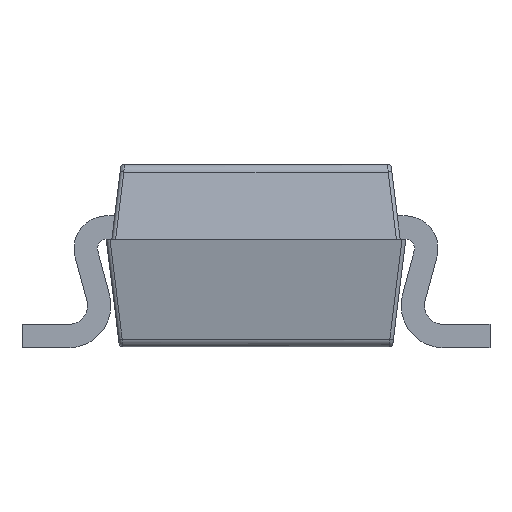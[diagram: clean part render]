
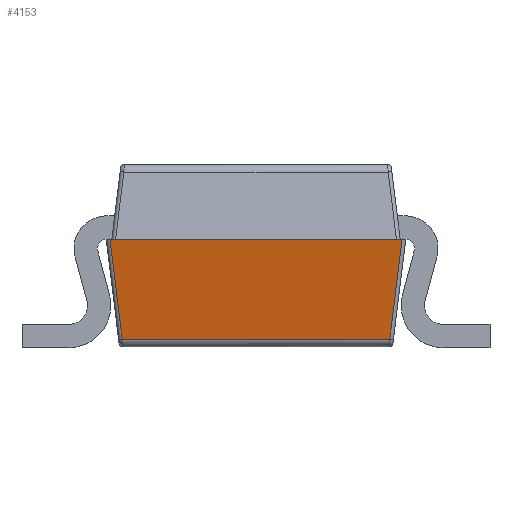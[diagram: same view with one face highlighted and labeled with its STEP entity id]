
A CAD part, left-side view. The second image highlights one B-rep face of the part: STEP entity #4153.
In plain terms, the highlighted planar face has unit normal (-0.985, 0, -0.174).
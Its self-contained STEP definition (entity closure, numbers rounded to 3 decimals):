
#365=FACE_OUTER_BOUND('',#539,.T.);
#539=EDGE_LOOP('',(#3409,#3410,#3411,#3412));
#751=LINE('',#6845,#1103);
#821=LINE('',#7245,#1173);
#829=LINE('',#7261,#1181);
#831=LINE('',#7265,#1183);
#1103=VECTOR('',#5033,10.);
#1173=VECTOR('',#5211,10.);
#1181=VECTOR('',#5235,10.);
#1183=VECTOR('',#5241,10.);
#1738=VERTEX_POINT('',#6842);
#1739=VERTEX_POINT('',#6844);
#1814=VERTEX_POINT('',#7213);
#1815=VERTEX_POINT('',#7241);
#2268=EDGE_CURVE('',#1739,#1738,#751,.T.);
#2375=EDGE_CURVE('',#1814,#1815,#821,.T.);
#2383=EDGE_CURVE('',#1739,#1814,#829,.T.);
#2385=EDGE_CURVE('',#1815,#1738,#831,.T.);
#3409=ORIENTED_EDGE('',*,*,#2375,.F.);
#3410=ORIENTED_EDGE('',*,*,#2383,.F.);
#3411=ORIENTED_EDGE('',*,*,#2268,.T.);
#3412=ORIENTED_EDGE('',*,*,#2385,.F.);
#3892=PLANE('',#4465);
#4153=ADVANCED_FACE('',(#365),#3892,.F.);
#4465=AXIS2_PLACEMENT_3D('',#7264,#5239,#5240);
#5033=DIRECTION('',(0.,1.,0.));
#5211=DIRECTION('',(0.,1.,0.));
#5235=DIRECTION('',(0.172,0.12,-0.978));
#5239=DIRECTION('center_axis',(0.985,0.,0.174));
#5240=DIRECTION('ref_axis',(-0.174,0.,0.985));
#5241=DIRECTION('',(-0.172,0.12,0.978));
#6842=CARTESIAN_POINT('',(-1.45,0.78,-0.125));
#6844=CARTESIAN_POINT('',(-1.45,-0.78,-0.125));
#6845=CARTESIAN_POINT('',(-1.45,-0.8,-0.125));
#7213=CARTESIAN_POINT('',(-1.356,-0.715,-0.659));
#7241=CARTESIAN_POINT('',(-1.356,0.715,-0.659));
#7245=CARTESIAN_POINT('',(-1.356,0.,-0.659));
#7261=CARTESIAN_POINT('',(-1.392,-0.74,-0.453));
#7264=CARTESIAN_POINT('Origin',(-1.349,0.,
-0.7));
#7265=CARTESIAN_POINT('',(-1.349,0.71,-0.697));
